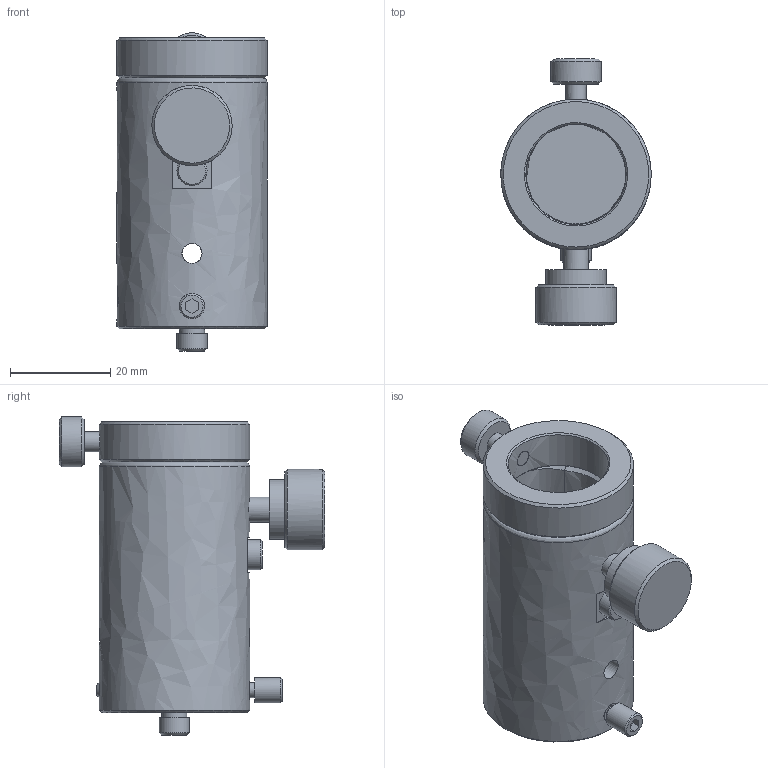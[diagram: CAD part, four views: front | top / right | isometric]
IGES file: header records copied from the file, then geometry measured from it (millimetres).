
Global section: file name: BRS-20-50-M6; native system: Autodesk Inventor 2021; preprocessor: unknown; author: e.nonaka; date: 20220914.172403; units: millimetre
Bounding box: 30 x 53 x 63.49 mm (x, y, z)
Volume: 26976.1 mm3; surface area: 11945 mm2
Topology: 1 solids, 1 shells, 78 faces, 161 edges, 105 vertices
Faces by surface type: bspline 78
